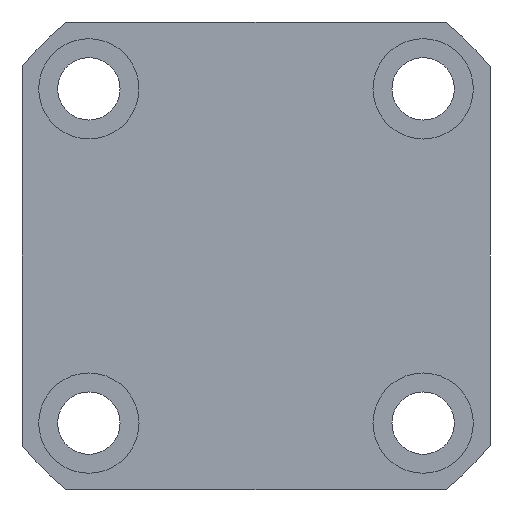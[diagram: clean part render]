
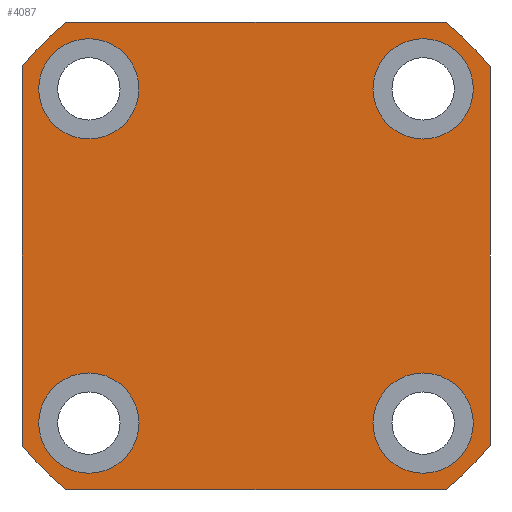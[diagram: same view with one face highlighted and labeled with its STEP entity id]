
A CAD part, front view. The second image highlights one B-rep face of the part: STEP entity #4087.
In plain terms, the highlighted planar face has unit normal (0, -1, 0) as drawn and (0, 0, 1) by its records, which use the part's own axes.
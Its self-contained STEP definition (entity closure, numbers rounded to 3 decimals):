
#77 = EDGE_CURVE ( 'NONE', #3453, #9729, #9786, .T. ) ;
#87 = DIRECTION ( 'NONE',  ( 1., 0., 0. ) ) ;
#214 = ORIENTED_EDGE ( 'NONE', *, *, #9929, .F. ) ;
#226 = EDGE_CURVE ( 'NONE', #2548, #8819, #589, .T. ) ;
#237 = DIRECTION ( 'NONE',  ( 0., 0., 1. ) ) ;
#251 = FACE_BOUND ( 'NONE', #4825, .T. ) ;
#336 = AXIS2_PLACEMENT_3D ( 'NONE', #2596, #8285, #3406 ) ;
#356 = CARTESIAN_POINT ( 'NONE',  ( -19.5, 15.002, 108. ) ) ;
#373 = AXIS2_PLACEMENT_3D ( 'NONE', #5145, #237, #5968 ) ;
#402 = AXIS2_PLACEMENT_3D ( 'NONE', #5425, #534, #6249 ) ;
#439 = CIRCLE ( 'NONE', #2543, 27. ) ;
#534 = DIRECTION ( 'NONE',  ( 0., 0., 1. ) ) ;
#560 = EDGE_LOOP ( 'NONE', ( #5345, #214 ) ) ;
#589 = LINE ( 'NONE', #8786, #6832 ) ;
#617 = CARTESIAN_POINT ( 'NONE',  ( 10.5, -14.998, 108. ) ) ;
#1312 = FACE_BOUND ( 'NONE', #3555, .T. ) ;
#1390 = VERTEX_POINT ( 'NONE', #6324 ) ;
#1591 = VERTEX_POINT ( 'NONE', #3667 ) ;
#1596 = CARTESIAN_POINT ( 'NONE',  ( 16.971, 21., 108. ) ) ;
#1787 = ORIENTED_EDGE ( 'NONE', *, *, #226, .T. ) ;
#1793 = AXIS2_PLACEMENT_3D ( 'NONE', #2987, #8682, #3787 ) ;
#2089 = CARTESIAN_POINT ( 'NONE',  ( 15., 15., 108. ) ) ;
#2347 = CIRCLE ( 'NONE', #8822, 4.5 ) ;
#2408 = CARTESIAN_POINT ( 'NONE',  ( 0., 0., 108. ) ) ;
#2472 = EDGE_CURVE ( 'NONE', #8751, #5970, #8867, .T. ) ;
#2531 = DIRECTION ( 'NONE',  ( 1., 0., 0. ) ) ;
#2543 = AXIS2_PLACEMENT_3D ( 'NONE', #9904, #5012, #87 ) ;
#2548 = VERTEX_POINT ( 'NONE', #7300 ) ;
#2596 = CARTESIAN_POINT ( 'NONE',  ( 0., 0., 108. ) ) ;
#2670 = EDGE_CURVE ( 'NONE', #3858, #1591, #8079, .T. ) ;
#2931 = DIRECTION ( 'NONE',  ( 1., 0., 0. ) ) ;
#2950 = AXIS2_PLACEMENT_3D ( 'NONE', #9346, #4507, #10205 ) ;
#2987 = CARTESIAN_POINT ( 'NONE',  ( -15., -14.998, 108. ) ) ;
#3146 = EDGE_CURVE ( 'NONE', #7615, #2548, #10631, .T. ) ;
#3222 = DIRECTION ( 'NONE',  ( 1., 0., 0. ) ) ;
#3346 = ORIENTED_EDGE ( 'NONE', *, *, #77, .T. ) ;
#3369 = CARTESIAN_POINT ( 'NONE',  ( -10.5, -14.998, 108. ) ) ;
#3406 = DIRECTION ( 'NONE',  ( 1., 0., 0. ) ) ;
#3431 = VERTEX_POINT ( 'NONE', #7974 ) ;
#3453 = VERTEX_POINT ( 'NONE', #6379 ) ;
#3470 = ORIENTED_EDGE ( 'NONE', *, *, #2472, .F. ) ;
#3555 = EDGE_LOOP ( 'NONE', ( #3470, #4932 ) ) ;
#3616 = EDGE_CURVE ( 'NONE', #1591, #3858, #2347, .T. ) ;
#3667 = CARTESIAN_POINT ( 'NONE',  ( -10.5, 15.002, 108. ) ) ;
#3676 = AXIS2_PLACEMENT_3D ( 'NONE', #9356, #4476, #10183 ) ;
#3735 = CIRCLE ( 'NONE', #3676, 27. ) ;
#3747 = ORIENTED_EDGE ( 'NONE', *, *, #3146, .T. ) ;
#3757 = EDGE_CURVE ( 'NONE', #5970, #8751, #8334, .T. ) ;
#3787 = DIRECTION ( 'NONE',  ( 1., 0., 0. ) ) ;
#3858 = VERTEX_POINT ( 'NONE', #356 ) ;
#3883 = EDGE_CURVE ( 'NONE', #9729, #3431, #3735, .T. ) ;
#3940 = EDGE_CURVE ( 'NONE', #3979, #7698, #7805, .T. ) ;
#3979 = VERTEX_POINT ( 'NONE', #5108 ) ;
#4023 = DIRECTION ( 'NONE',  ( 0., 0., 1. ) ) ;
#4041 = DIRECTION ( 'NONE',  ( 0., 0., 1. ) ) ;
#4087 = ADVANCED_FACE ( 'NONE', ( #251, #6534, #1312, #8724, #4360 ), #5285, .T. ) ;
#4181 = DIRECTION ( 'NONE',  ( 0., 0., 1. ) ) ;
#4210 = CARTESIAN_POINT ( 'NONE',  ( -21., 21., 108. ) ) ;
#4212 = DIRECTION ( 'NONE',  ( 0., -1., 0. ) ) ;
#4213 = CARTESIAN_POINT ( 'NONE',  ( -15., 15.002, 108. ) ) ;
#4312 = CARTESIAN_POINT ( 'NONE',  ( -21., 21., 108. ) ) ;
#4360 = FACE_OUTER_BOUND ( 'NONE', #8403, .T. ) ;
#4439 = EDGE_CURVE ( 'NONE', #7698, #3979, #5764, .T. ) ;
#4454 = VERTEX_POINT ( 'NONE', #3369 ) ;
#4476 = DIRECTION ( 'NONE',  ( 0., 0., 1. ) ) ;
#4495 = CARTESIAN_POINT ( 'NONE',  ( 21., 16.971, 108. ) ) ;
#4507 = DIRECTION ( 'NONE',  ( 0., 0., 1. ) ) ;
#4825 = EDGE_LOOP ( 'NONE', ( #5850, #5720 ) ) ;
#4932 = ORIENTED_EDGE ( 'NONE', *, *, #3757, .F. ) ;
#5012 = DIRECTION ( 'NONE',  ( 0., 0., 1. ) ) ;
#5034 = DIRECTION ( 'NONE',  ( 1., 0., 0. ) ) ;
#5108 = CARTESIAN_POINT ( 'NONE',  ( 10.5, 15., 108. ) ) ;
#5141 = ORIENTED_EDGE ( 'NONE', *, *, #8487, .T. ) ;
#5145 = CARTESIAN_POINT ( 'NONE',  ( 15., -14.998, 108. ) ) ;
#5235 = ORIENTED_EDGE ( 'NONE', *, *, #7590, .T. ) ;
#5285 = PLANE ( 'NONE',  #2950 ) ;
#5345 = ORIENTED_EDGE ( 'NONE', *, *, #8893, .F. ) ;
#5379 = AXIS2_PLACEMENT_3D ( 'NONE', #4213, #9923, #5034 ) ;
#5425 = CARTESIAN_POINT ( 'NONE',  ( -15., -14.998, 108. ) ) ;
#5444 = VECTOR ( 'NONE', #2531, 1000. ) ;
#5557 = VERTEX_POINT ( 'NONE', #1596 ) ;
#5625 = DIRECTION ( 'NONE',  ( 0., 1., 0. ) ) ;
#5720 = ORIENTED_EDGE ( 'NONE', *, *, #2670, .F. ) ;
#5764 = CIRCLE ( 'NONE', #7847, 4.5 ) ;
#5835 = ORIENTED_EDGE ( 'NONE', *, *, #9639, .T. ) ;
#5850 = ORIENTED_EDGE ( 'NONE', *, *, #3616, .F. ) ;
#5896 = ORIENTED_EDGE ( 'NONE', *, *, #3883, .T. ) ;
#5946 = VECTOR ( 'NONE', #4212, 1000. ) ;
#5968 = DIRECTION ( 'NONE',  ( 1., 0., 0. ) ) ;
#5970 = VERTEX_POINT ( 'NONE', #617 ) ;
#6003 = VERTEX_POINT ( 'NONE', #6491 ) ;
#6167 = CIRCLE ( 'NONE', #402, 4.5 ) ;
#6249 = DIRECTION ( 'NONE',  ( 1., 0., 0. ) ) ;
#6324 = CARTESIAN_POINT ( 'NONE',  ( -19.5, -14.998, 108. ) ) ;
#6379 = CARTESIAN_POINT ( 'NONE',  ( -21., 16.971, 108. ) ) ;
#6491 = CARTESIAN_POINT ( 'NONE',  ( -16.971, 21., 108. ) ) ;
#6534 = FACE_BOUND ( 'NONE', #560, .T. ) ;
#6609 = ORIENTED_EDGE ( 'NONE', *, *, #9613, .T. ) ;
#6803 = AXIS2_PLACEMENT_3D ( 'NONE', #2408, #8090, #3222 ) ;
#6832 = VECTOR ( 'NONE', #5625, 1000. ) ;
#6949 = AXIS2_PLACEMENT_3D ( 'NONE', #2089, #7787, #2931 ) ;
#7037 = VECTOR ( 'NONE', #9955, 1000. ) ;
#7300 = CARTESIAN_POINT ( 'NONE',  ( 21., -16.971, 108. ) ) ;
#7485 = CARTESIAN_POINT ( 'NONE',  ( 19.5, 15., 108. ) ) ;
#7590 = EDGE_CURVE ( 'NONE', #8819, #5557, #439, .T. ) ;
#7615 = VERTEX_POINT ( 'NONE', #8300 ) ;
#7698 = VERTEX_POINT ( 'NONE', #7485 ) ;
#7787 = DIRECTION ( 'NONE',  ( 0., 0., 1. ) ) ;
#7805 = CIRCLE ( 'NONE', #6949, 4.5 ) ;
#7847 = AXIS2_PLACEMENT_3D ( 'NONE', #9064, #4181, #9887 ) ;
#7934 = CIRCLE ( 'NONE', #1793, 4.5 ) ;
#7958 = EDGE_LOOP ( 'NONE', ( #8833, #10386 ) ) ;
#7974 = CARTESIAN_POINT ( 'NONE',  ( -16.971, -21., 108. ) ) ;
#8079 = CIRCLE ( 'NONE', #5379, 4.5 ) ;
#8090 = DIRECTION ( 'NONE',  ( 0., 0., 1. ) ) ;
#8218 = CARTESIAN_POINT ( 'NONE',  ( -21., -21., 108. ) ) ;
#8285 = DIRECTION ( 'NONE',  ( 0., 0., 1. ) ) ;
#8300 = CARTESIAN_POINT ( 'NONE',  ( 16.971, -21., 108. ) ) ;
#8331 = CIRCLE ( 'NONE', #336, 27. ) ;
#8334 = CIRCLE ( 'NONE', #373, 4.5 ) ;
#8403 = EDGE_LOOP ( 'NONE', ( #1787, #5235, #5835, #6609, #3346, #5896, #5141, #3747 ) ) ;
#8487 = EDGE_CURVE ( 'NONE', #3431, #7615, #10029, .T. ) ;
#8682 = DIRECTION ( 'NONE',  ( 0., 0., 1. ) ) ;
#8724 = FACE_BOUND ( 'NONE', #7958, .T. ) ;
#8751 = VERTEX_POINT ( 'NONE', #9127 ) ;
#8786 = CARTESIAN_POINT ( 'NONE',  ( 21., 21., 108. ) ) ;
#8819 = VERTEX_POINT ( 'NONE', #4495 ) ;
#8822 = AXIS2_PLACEMENT_3D ( 'NONE', #8921, #4023, #9732 ) ;
#8833 = ORIENTED_EDGE ( 'NONE', *, *, #4439, .F. ) ;
#8867 = CIRCLE ( 'NONE', #8880, 4.5 ) ;
#8880 = AXIS2_PLACEMENT_3D ( 'NONE', #8937, #4041, #9752 ) ;
#8893 = EDGE_CURVE ( 'NONE', #4454, #1390, #6167, .T. ) ;
#8921 = CARTESIAN_POINT ( 'NONE',  ( -15., 15.002, 108. ) ) ;
#8937 = CARTESIAN_POINT ( 'NONE',  ( 15., -14.998, 108. ) ) ;
#9064 = CARTESIAN_POINT ( 'NONE',  ( 15., 15., 108. ) ) ;
#9127 = CARTESIAN_POINT ( 'NONE',  ( 19.5, -14.998, 108. ) ) ;
#9207 = LINE ( 'NONE', #4210, #7037 ) ;
#9346 = CARTESIAN_POINT ( 'NONE',  ( 0., 0., 108. ) ) ;
#9356 = CARTESIAN_POINT ( 'NONE',  ( 0., 0., 108. ) ) ;
#9613 = EDGE_CURVE ( 'NONE', #6003, #3453, #8331, .T. ) ;
#9639 = EDGE_CURVE ( 'NONE', #5557, #6003, #9207, .T. ) ;
#9729 = VERTEX_POINT ( 'NONE', #10016 ) ;
#9732 = DIRECTION ( 'NONE',  ( 1., 0., 0. ) ) ;
#9752 = DIRECTION ( 'NONE',  ( 1., 0., 0. ) ) ;
#9786 = LINE ( 'NONE', #4312, #5946 ) ;
#9887 = DIRECTION ( 'NONE',  ( 1., 0., 0. ) ) ;
#9904 = CARTESIAN_POINT ( 'NONE',  ( 0., 0., 108. ) ) ;
#9923 = DIRECTION ( 'NONE',  ( 0., 0., 1. ) ) ;
#9929 = EDGE_CURVE ( 'NONE', #1390, #4454, #7934, .T. ) ;
#9955 = DIRECTION ( 'NONE',  ( -1., 0., 0. ) ) ;
#10016 = CARTESIAN_POINT ( 'NONE',  ( -21., -16.971, 108. ) ) ;
#10029 = LINE ( 'NONE', #8218, #5444 ) ;
#10183 = DIRECTION ( 'NONE',  ( 1., 0., 0. ) ) ;
#10205 = DIRECTION ( 'NONE',  ( 1., 0., 0. ) ) ;
#10386 = ORIENTED_EDGE ( 'NONE', *, *, #3940, .F. ) ;
#10631 = CIRCLE ( 'NONE', #6803, 27. ) ;
